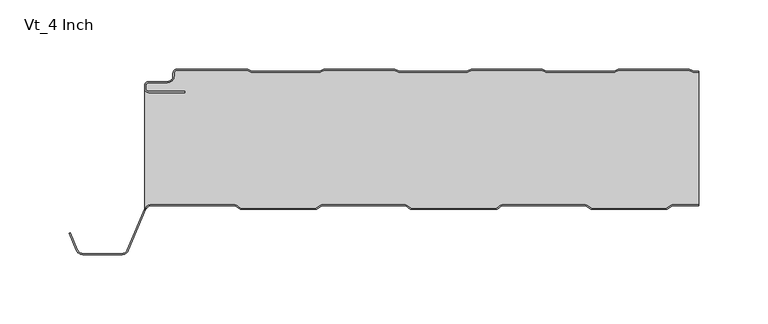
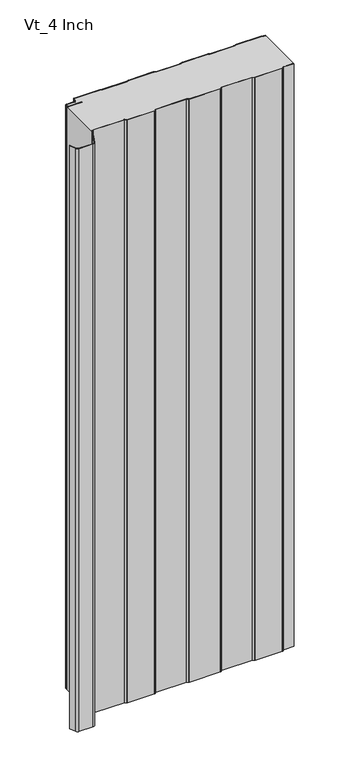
"""IFC4 building model written with IfcOpenShell, lengths in millimetres: plate geometry, AWIP_R18_CP_HR3_Vt_Roof Panel : Vt_4 Inch."""

from ifc_helpers import new_model, si_unit, point, frame, frame_2d, origin, origin_with_axes, place, context, project, spatial, polyline, circle_curve, trimmed, segment, composite_curve, outline, extrude, source, transform, mapped, element, save
from ifc_brep_helpers import plane_surface, cylinder_surface, revolved_surface, advanced_brep


def vt_4_inch_e9e6d7b6(model_context):
    return source(origin(), model_context, "Body", "SolidModel", [
        extrude(outline(composite_curve([segment(polyline([(212.4037368, -1.5), (215.9042607, -1.5), (215.9042607, -2.3), (212.4037368, -2.3)]), True, "CONTINUOUS"), segment(trimmed(circle_curve(frame_2d((212.4037368, 1.0)), 3.3), [point((212.4037368, -2.3))], [point((211.0949824, -2.0293831))], False, "CARTESIAN"), True, "CONTINUOUS"), segment(polyline([(211.0949824, -2.0293831), (208.7048832, -0.9968123)]), True, "CONTINUOUS"), segment(trimmed(circle_curve(frame_2d((207.7530619, -3.2)), 2.4), [point((208.7048832, -0.9968123))], [point((207.7530619, -0.8))], True, "CARTESIAN"), True, "CONTINUOUS"), segment(polyline([(207.7530619, -0.8), (158.8384168, -0.8)]), True, "CONTINUOUS"), segment(trimmed(circle_curve(frame_2d((158.8384168, -3.2)), 2.4), [point((158.8384168, -0.8))], [point((157.8865954, -0.9968123))], True, "CARTESIAN"), True, "CONTINUOUS"), segment(polyline([(157.8865954, -0.9968123), (155.4964962, -2.0293831)]), True, "CONTINUOUS"), segment(trimmed(circle_curve(frame_2d((154.1877419, 1.0)), 3.3), [point((155.4964962, -2.0293831))], [point((154.1877419, -2.3))], False, "CARTESIAN"), True, "CONTINUOUS"), segment(polyline([(154.1877419, -2.3), (105.8037368, -2.3)]), True, "CONTINUOUS"), segment(trimmed(circle_curve(frame_2d((105.8037368, 1.0)), 3.3), [point((105.8037368, -2.3))], [point((104.4949824, -2.0293831))], False, "CARTESIAN"), True, "CONTINUOUS"), segment(polyline([(104.4949824, -2.0293831), (102.1048832, -0.9968123)]), True, "CONTINUOUS"), segment(trimmed(circle_curve(frame_2d((101.1530619, -3.2)), 2.4), [point((102.1048832, -0.9968123))], [point((101.1530619, -0.8))], True, "CARTESIAN"), True, "CONTINUOUS"), segment(polyline([(101.1530619, -0.8), (52.2384168, -0.8)]), True, "CONTINUOUS"), segment(trimmed(circle_curve(frame_2d((52.2384168, -3.2)), 2.4), [point((52.2384168, -0.8))], [point((51.2865954, -0.9968123))], True, "CARTESIAN"), True, "CONTINUOUS"), segment(polyline([(51.2865954, -0.9968123), (48.8964962, -2.0293831)]), True, "CONTINUOUS"), segment(trimmed(circle_curve(frame_2d((47.5877419, 1.0)), 3.3), [point((48.8964962, -2.0293831))], [point((47.5877419, -2.3))], False, "CARTESIAN"), True, "CONTINUOUS"), segment(polyline([(47.5877419, -2.3), (-0.7962632, -2.3)]), True, "CONTINUOUS"), segment(trimmed(circle_curve(frame_2d((-0.7962632, 1.0)), 3.3), [point((-0.7962632, -2.3))], [point((-2.1050176, -2.0293831))], False, "CARTESIAN"), True, "CONTINUOUS"), segment(polyline([(-2.1050176, -2.0293831), (-4.4951168, -0.9968123)]), True, "CONTINUOUS"), segment(trimmed(circle_curve(frame_2d((-5.4469381, -3.2)), 2.4), [point((-4.4951168, -0.9968123))], [point((-5.4469381, -0.8))], True, "CARTESIAN"), True, "CONTINUOUS"), segment(polyline([(-5.4469381, -0.8), (-54.3615832, -0.8)]), True, "CONTINUOUS"), segment(trimmed(circle_curve(frame_2d((-54.3615832, -3.2)), 2.4), [point((-54.3615832, -0.8))], [point((-55.3134046, -0.9968123))], True, "CARTESIAN"), True, "CONTINUOUS"), segment(polyline([(-55.3134046, -0.9968123), (-57.7035038, -2.0293831)]), True, "CONTINUOUS"), segment(trimmed(circle_curve(frame_2d((-59.0122581, 1.0)), 3.3), [point((-57.7035038, -2.0293831))], [point((-59.0122581, -2.3))], False, "CARTESIAN"), True, "CONTINUOUS"), segment(polyline([(-59.0122581, -2.3), (-107.3962632, -2.3)]), True, "CONTINUOUS"), segment(trimmed(circle_curve(frame_2d((-107.3962632, 1.0)), 3.3), [point((-107.3962632, -2.3))], [point((-108.7050176, -2.0293831))], False, "CARTESIAN"), True, "CONTINUOUS"), segment(polyline([(-108.7050176, -2.0293831), (-111.0951168, -0.9968123)]), True, "CONTINUOUS"), segment(trimmed(circle_curve(frame_2d((-112.0469381, -3.2)), 2.4), [point((-111.0951168, -0.9968123))], [point((-112.0469381, -0.8))], True, "CARTESIAN"), True, "CONTINUOUS"), segment(polyline([(-112.0469381, -0.8), (-161.8042607, -0.8)]), True, "CONTINUOUS"), segment(trimmed(circle_curve(frame_2d((-161.8042607, -3.0)), 2.2), [point((-161.8042607, -0.8))], [point((-164.0042607, -3.0))], True, "CARTESIAN"), True, "CONTINUOUS"), segment(polyline([(-164.0042607, -3.0), (-164.0042607, -5.0)]), True, "CONTINUOUS"), segment(trimmed(circle_curve(frame_2d((-168.8042607, -5.0)), 4.8), [point((-164.0042607, -5.0))], [point((-168.8042607, -9.8))], False, "CARTESIAN"), True, "CONTINUOUS"), segment(polyline([(-168.8042607, -9.8), (-182.3200708, -9.8)]), True, "CONTINUOUS"), segment(trimmed(circle_curve(frame_2d((-182.3200708, -12.0)), 2.2), [point((-182.3200708, -9.8))], [point((-184.5200708, -12.0))], True, "CARTESIAN"), True, "CONTINUOUS"), segment(polyline([(-184.5200708, -12.0), (-184.5200708, -14.0)]), True, "CONTINUOUS"), segment(trimmed(circle_curve(frame_2d((-182.3200708, -14.0)), 2.2), [point((-184.5200708, -14.0))], [point((-182.3200708, -16.2))], True, "CARTESIAN"), True, "CONTINUOUS"), segment(polyline([(-182.3200708, -16.2), (-156.3790289, -16.2), (-156.3790289, -17.0), (-182.3200708, -17.0)]), True, "CONTINUOUS"), segment(trimmed(circle_curve(frame_2d((-182.3200708, -14.0)), 3.0), [point((-182.3200708, -17.0))], [point((-185.3200708, -14.0))], False, "CARTESIAN"), True, "CONTINUOUS"), segment(polyline([(-185.3200708, -14.0), (-185.3200708, -12.0)]), True, "CONTINUOUS"), segment(trimmed(circle_curve(frame_2d((-182.3200708, -12.0)), 3.0), [point((-185.3200708, -12.0))], [point((-182.3200708, -9.0))], False, "CARTESIAN"), True, "CONTINUOUS"), segment(polyline([(-182.3200708, -9.0), (-168.8042607, -9.0)]), True, "CONTINUOUS"), segment(trimmed(circle_curve(frame_2d((-168.8042607, -5.0)), 4.0), [point((-168.8042607, -9.0))], [point((-164.8042607, -5.0))], True, "CARTESIAN"), True, "CONTINUOUS"), segment(polyline([(-164.8042607, -5.0), (-164.8042607, -3.0)]), True, "CONTINUOUS"), segment(trimmed(circle_curve(frame_2d((-161.8042607, -3.0)), 3.0), [point((-164.8042607, -3.0))], [point((-161.8042607, 0.0))], False, "CARTESIAN"), True, "CONTINUOUS"), segment(polyline([(-161.8042607, 0.0), (-112.0469381, 0.0)]), True, "CONTINUOUS"), segment(trimmed(circle_curve(frame_2d((-112.0469381, -3.2)), 3.2), [point((-112.0469381, 0.0))], [point((-110.777843, -0.2624164))], False, "CARTESIAN"), True, "CONTINUOUS"), segment(polyline([(-110.777843, -0.2624164), (-108.3877438, -1.2949872)]), True, "CONTINUOUS"), segment(trimmed(circle_curve(frame_2d((-107.3962632, 1.0)), 2.5), [point((-108.3877438, -1.2949872))], [point((-107.3962632, -1.5))], True, "CARTESIAN"), True, "CONTINUOUS"), segment(polyline([(-107.3962632, -1.5), (-59.0122581, -1.5)]), True, "CONTINUOUS"), segment(trimmed(circle_curve(frame_2d((-59.0122581, 1.0)), 2.5), [point((-59.0122581, -1.5))], [point((-58.0207775, -1.2949872))], True, "CARTESIAN"), True, "CONTINUOUS"), segment(polyline([(-58.0207775, -1.2949872), (-55.6306783, -0.2624164)]), True, "CONTINUOUS"), segment(trimmed(circle_curve(frame_2d((-54.3615832, -3.2)), 3.2), [point((-55.6306783, -0.2624164))], [point((-54.3615832, 0.0))], False, "CARTESIAN"), True, "CONTINUOUS"), segment(polyline([(-54.3615832, 0.0), (-5.4469381, 0.0)]), True, "CONTINUOUS"), segment(trimmed(circle_curve(frame_2d((-5.4469381, -3.2)), 3.2), [point((-5.4469381, 0.0))], [point((-4.177843, -0.2624164))], False, "CARTESIAN"), True, "CONTINUOUS"), segment(polyline([(-4.177843, -0.2624164), (-1.7877438, -1.2949872)]), True, "CONTINUOUS"), segment(trimmed(circle_curve(frame_2d((-0.7962632, 1.0)), 2.5), [point((-1.7877438, -1.2949872))], [point((-0.7962632, -1.5))], True, "CARTESIAN"), True, "CONTINUOUS"), segment(polyline([(-0.7962632, -1.5), (47.5877419, -1.5)]), True, "CONTINUOUS"), segment(trimmed(circle_curve(frame_2d((47.5877419, 1.0)), 2.5), [point((47.5877419, -1.5))], [point((48.5792225, -1.2949872))], True, "CARTESIAN"), True, "CONTINUOUS"), segment(polyline([(48.5792225, -1.2949872), (50.9693217, -0.2624164)]), True, "CONTINUOUS"), segment(trimmed(circle_curve(frame_2d((52.2384168, -3.2)), 3.2), [point((50.9693217, -0.2624164))], [point((52.2384168, 0.0))], False, "CARTESIAN"), True, "CONTINUOUS"), segment(polyline([(52.2384168, 0.0), (101.1530619, 0.0)]), True, "CONTINUOUS"), segment(trimmed(circle_curve(frame_2d((101.1530619, -3.2)), 3.2), [point((101.1530619, 0.0))], [point((102.422157, -0.2624164))], False, "CARTESIAN"), True, "CONTINUOUS"), segment(polyline([(102.422157, -0.2624164), (104.8122562, -1.2949872)]), True, "CONTINUOUS"), segment(trimmed(circle_curve(frame_2d((105.8037368, 1.0)), 2.5), [point((104.8122562, -1.2949872))], [point((105.8037368, -1.5))], True, "CARTESIAN"), True, "CONTINUOUS"), segment(polyline([(105.8037368, -1.5), (154.1877419, -1.5)]), True, "CONTINUOUS"), segment(trimmed(circle_curve(frame_2d((154.1877419, 1.0)), 2.5), [point((154.1877419, -1.5))], [point((155.1792225, -1.2949872))], True, "CARTESIAN"), True, "CONTINUOUS"), segment(polyline([(155.1792225, -1.2949872), (157.5693217, -0.2624164)]), True, "CONTINUOUS"), segment(trimmed(circle_curve(frame_2d((158.8384168, -3.2)), 3.2), [point((157.5693217, -0.2624164))], [point((158.8384168, 0.0))], False, "CARTESIAN"), True, "CONTINUOUS"), segment(polyline([(158.8384168, 0.0), (207.7530619, 0.0)]), True, "CONTINUOUS"), segment(trimmed(circle_curve(frame_2d((207.7530619, -3.2)), 3.2), [point((207.7530619, 0.0))], [point((209.022157, -0.2624164))], False, "CARTESIAN"), True, "CONTINUOUS"), segment(polyline([(209.022157, -0.2624164), (211.4122562, -1.2949872)]), True, "CONTINUOUS"), segment(trimmed(circle_curve(frame_2d((212.4037368, 1.0)), 2.5), [point((211.4122562, -1.2949872))], [point((212.4037368, -1.5))], True, "CARTESIAN"), True, "CONTINUOUS")], self_intersect=False)), origin_with_axes(), (0.0, 0.0, 1.0), 1219.2),
        advanced_brep(
        [(196.6223362, -98.0158806, 0.0), (215.9042607, -98.0158806, 0.0), (215.9042607, -98.0158806, 1219.2), (196.6223362, -98.0158806, 1219.2), (195.8609464, -98.2621797, 1219.2), (195.8609464, -98.2621797, 0.0), (192.3488119, -100.8000001, 1219.2), (192.3488119, -100.8000001, 0.0), (138.1459308, -100.8000001, 1219.2), (138.1459308, -100.8000001, 0.0), (134.6337968, -98.2621798, 1219.2), (134.6337968, -98.2621798, 0.0), (133.8724069, -98.0158806, 1219.2), (133.8724069, -98.0158806, 0.0), (73.3762764, -98.0158806, 1219.2), (73.3762764, -98.0158806, 0.0), (72.6148867, -98.2621797, 1219.2), (72.6148867, -98.2621797, 0.0), (69.1027521, -100.8000001, 1219.2), (69.1027521, -100.8000001, 0.0), (7.6420063, -100.8000001, 1219.2), (7.6420063, -100.8000001, 0.0), (4.1298717, -98.2621797, 1219.2), (4.1298717, -98.2621797, 0.0), (3.3684818, -98.0158805, 1219.2), (3.3684818, -98.0158805, 0.0), (-57.1276444, -98.0158805, 1219.2), (-57.1276444, -98.0158805, 0.0), (-57.8890342, -98.2621797, 1219.2), (-57.8890342, -98.2621797, 0.0), (-61.4011687, -100.8, 1219.2), (-61.4011687, -100.8, 0.0), (-115.604049, -100.8, 1219.2), (-115.604049, -100.8, 0.0), (-119.1161836, -98.2621797, 1219.2), (-119.1161836, -98.2621797, 0.0), (-119.8775734, -98.0158805, 1219.2), (-119.8775734, -98.0158805, 0.0), (-180.6614903, -98.0158805, 1219.2), (-180.6614903, -98.0158805, 0.0), (215.9042607, -2.3, 1219.2), (212.4037368, -2.3, 1219.2), (211.0949824, -2.0293831, 1219.2), (208.7048832, -0.9968123, 1219.2), (207.7530619, -0.8, 1219.2), (158.8384168, -0.8, 1219.2), (157.8865954, -0.9968123, 1219.2), (155.4964962, -2.0293831, 1219.2), (154.1877419, -2.3, 1219.2), (105.8037368, -2.3, 1219.2), (104.4949824, -2.0293831, 1219.2), (102.1048832, -0.9968123, 1219.2), (101.1530619, -0.8, 1219.2), (52.2384168, -0.8, 1219.2), (51.2865954, -0.9968123, 1219.2), (48.8964962, -2.0293831, 1219.2), (47.5877419, -2.3, 1219.2), (-0.7962632, -2.3, 1219.2), (-2.1050176, -2.0293831, 1219.2), (-4.4951168, -0.9968123, 1219.2), (-5.4469381, -0.8, 1219.2), (-54.3615832, -0.8, 1219.2), (-55.3134046, -0.9968123, 1219.2), (-57.7035038, -2.0293831, 1219.2), (-59.0122581, -2.3, 1219.2), (-107.3962632, -2.3, 1219.2), (-108.7050176, -2.0293831, 1219.2), (-111.0951168, -0.9968123, 1219.2), (-112.0469381, -0.8, 1219.2), (-161.8042607, -0.8, 1219.2), (-164.0042607, -3.0, 1219.2), (-164.0042607, -5.0, 1219.2), (-168.8042607, -9.8, 1219.2), (-182.3200708, -9.8, 1219.2), (-184.5200708, -12.0, 1219.2), (-184.5200708, -14.0, 1219.2), (-182.3200708, -16.2, 1219.2), (-156.3790289, -16.2, 1219.2), (-156.3790289, -17.0, 1219.2), (-182.3200708, -17.0, 1219.2), (-185.3200708, -14.0, 1219.2), (-185.3370174, -101.7298575, 1219.2), (-185.3370174, -101.7298575, 0.0), (-185.3370174, -14.0, 0.0), (-182.3200708, -17.0, 0.0), (-156.3790289, -17.0, 0.0), (-156.3790289, -16.2, 0.0), (-182.3200708, -16.2, 0.0), (-184.5200708, -14.0, 0.0), (-184.5200708, -12.0, 0.0), (-182.3200708, -9.8, 0.0), (-168.8042607, -9.8, 0.0), (-164.0042607, -5.0, 0.0), (-164.0042607, -3.0, 0.0), (-161.8042607, -0.8, 0.0), (-112.0469381, -0.8, 0.0), (-111.0951168, -0.9968123, 0.0), (-108.7050176, -2.0293831, 0.0), (-107.3962632, -2.3, 0.0), (-59.0122581, -2.3, 0.0), (-57.7035038, -2.0293831, 0.0), (-55.3134046, -0.9968123, 0.0), (-54.3615832, -0.8, 0.0), (-5.4469381, -0.8, 0.0), (-4.4951168, -0.9968123, 0.0), (-2.1050176, -2.0293831, 0.0), (-0.7962632, -2.3, 0.0), (47.5877419, -2.3, 0.0), (48.8964962, -2.0293831, 0.0), (51.2865954, -0.9968123, 0.0), (52.2384168, -0.8, 0.0), (101.1530619, -0.8, 0.0), (102.1048832, -0.9968123, 0.0), (104.4949824, -2.0293831, 0.0), (105.8037368, -2.3, 0.0), (154.1877419, -2.3, 0.0), (155.4964962, -2.0293831, 0.0), (157.8865954, -0.9968123, 0.0), (158.8384168, -0.8, 0.0), (207.7530619, -0.8, 0.0), (208.7048832, -0.9968123, 0.0), (211.0949824, -2.0293831, 0.0), (212.4037368, -2.3, 0.0), (215.9042607, -2.3, 0.0)],
        [
            (0, 1),
            (1, 2),
            (2, 3),
            (3, 0),
            (4, 5),
            (5, 0, circle_curve(frame((196.6223362, -99.3158806, 0.0), z_axis=(0.0, 0.0, -1.0), x_axis=(0.0, -1.0, 0.0)), 1.3)),
            (3, 4, circle_curve(frame((196.6223362, -99.3158806, 1219.2), z_axis=(0.0, 0.0, 1.0), x_axis=(0.0, -1.0, 0.0)), 1.3)),
            (6, 7),
            (7, 5),
            (4, 6),
            (8, 9),
            (9, 7),
            (6, 8),
            (10, 11),
            (11, 9),
            (8, 10),
            (12, 13),
            (13, 11, circle_curve(frame((133.8724069, -99.3158806, 0.0), z_axis=(0.0, 0.0, -1.0), x_axis=(0.0, -1.0, 0.0)), 1.3)),
            (10, 12, circle_curve(frame((133.8724069, -99.3158806, 1219.2), z_axis=(0.0, 0.0, 1.0), x_axis=(0.0, -1.0, 0.0)), 1.3)),
            (14, 15),
            (15, 13),
            (12, 14),
            (16, 17),
            (17, 15, circle_curve(frame((73.3762764, -99.3158804, 0.0), z_axis=(0.0, 0.0, -1.0), x_axis=(0.0, -1.0, 0.0)), 1.2999998)),
            (14, 16, circle_curve(frame((73.3762764, -99.3158804, 1219.2), z_axis=(0.0, 0.0, 1.0), x_axis=(0.0, -1.0, 0.0)), 1.2999998)),
            (18, 19),
            (19, 17),
            (16, 18),
            (20, 21),
            (21, 19),
            (18, 20),
            (22, 23),
            (23, 21),
            (20, 22),
            (24, 25),
            (25, 23, circle_curve(frame((3.3684818, -99.3158805, 0.0), z_axis=(0.0, 0.0, -1.0), x_axis=(0.0, -1.0, 0.0)), 1.3)),
            (22, 24, circle_curve(frame((3.3684818, -99.3158805, 1219.2), z_axis=(0.0, 0.0, 1.0), x_axis=(0.0, -1.0, 0.0)), 1.3)),
            (26, 27),
            (27, 25),
            (24, 26),
            (28, 29),
            (29, 27, circle_curve(frame((-57.1276444, -99.3158805, 0.0), z_axis=(0.0, 0.0, -1.0), x_axis=(0.0, -1.0, 0.0)), 1.3)),
            (26, 28, circle_curve(frame((-57.1276444, -99.3158805, 1219.2), z_axis=(0.0, 0.0, 1.0), x_axis=(0.0, -1.0, 0.0)), 1.3)),
            (30, 31),
            (31, 29),
            (28, 30),
            (32, 33),
            (33, 31),
            (30, 32),
            (34, 35),
            (35, 33),
            (32, 34),
            (36, 37),
            (37, 35, circle_curve(frame((-119.8775734, -99.3158805, 0.0), z_axis=(0.0, 0.0, -1.0), x_axis=(0.0, -1.0, 0.0)), 1.3)),
            (34, 36, circle_curve(frame((-119.8775734, -99.3158805, 1219.2), z_axis=(0.0, 0.0, 1.0), x_axis=(0.0, -1.0, 0.0)), 1.3)),
            (38, 39),
            (39, 37),
            (36, 38),
            (2, 40),
            (40, 41),
            (41, 42, circle_curve(frame((212.4037368, 1.0, 1219.2), z_axis=(0.0, 0.0, -1.0), x_axis=(0.0, -1.0, 0.0)), 3.3)),
            (42, 43),
            (43, 44, circle_curve(frame((207.7530619, -3.2, 1219.2), z_axis=(0.0, 0.0, 1.0), x_axis=(0.0, -1.0, 0.0)), 2.4)),
            (44, 45),
            (45, 46, circle_curve(frame((158.8384168, -3.2, 1219.2), z_axis=(0.0, 0.0, 1.0), x_axis=(0.0, -1.0, 0.0)), 2.4)),
            (46, 47),
            (47, 48, circle_curve(frame((154.1877419, 1.0, 1219.2), z_axis=(0.0, 0.0, -1.0), x_axis=(0.0, -1.0, 0.0)), 3.3)),
            (48, 49),
            (49, 50, circle_curve(frame((105.8037368, 1.0, 1219.2), z_axis=(0.0, 0.0, -1.0), x_axis=(0.0, -1.0, 0.0)), 3.3)),
            (50, 51),
            (51, 52, circle_curve(frame((101.1530619, -3.2, 1219.2), z_axis=(0.0, 0.0, 1.0), x_axis=(0.0, -1.0, 0.0)), 2.4)),
            (52, 53),
            (53, 54, circle_curve(frame((52.2384168, -3.2, 1219.2), z_axis=(0.0, 0.0, 1.0), x_axis=(0.0, -1.0, 0.0)), 2.4)),
            (54, 55),
            (55, 56, circle_curve(frame((47.5877419, 1.0, 1219.2), z_axis=(0.0, 0.0, -1.0), x_axis=(0.0, -1.0, 0.0)), 3.3)),
            (56, 57),
            (57, 58, circle_curve(frame((-0.7962632, 1.0, 1219.2), z_axis=(0.0, 0.0, -1.0), x_axis=(0.0, -1.0, 0.0)), 3.3)),
            (58, 59),
            (59, 60, circle_curve(frame((-5.4469381, -3.2, 1219.2), z_axis=(0.0, 0.0, 1.0), x_axis=(0.0, -1.0, 0.0)), 2.4)),
            (60, 61),
            (61, 62, circle_curve(frame((-54.3615832, -3.2, 1219.2), z_axis=(0.0, 0.0, 1.0), x_axis=(0.0, -1.0, 0.0)), 2.4)),
            (62, 63),
            (63, 64, circle_curve(frame((-59.0122581, 1.0, 1219.2), z_axis=(0.0, 0.0, -1.0), x_axis=(0.0, -1.0, 0.0)), 3.3)),
            (64, 65),
            (65, 66, circle_curve(frame((-107.3962632, 1.0, 1219.2), z_axis=(0.0, 0.0, -1.0), x_axis=(0.0, -1.0, 0.0)), 3.3)),
            (66, 67),
            (67, 68, circle_curve(frame((-112.0469381, -3.2, 1219.2), z_axis=(0.0, 0.0, 1.0), x_axis=(0.0, -1.0, 0.0)), 2.4)),
            (68, 69),
            (69, 70, circle_curve(frame((-161.8042607, -3.0, 1219.2), z_axis=(0.0, 0.0, 1.0), x_axis=(0.0, -1.0, 0.0)), 2.2)),
            (70, 71),
            (71, 72, circle_curve(frame((-168.8042607, -5.0, 1219.2), z_axis=(0.0, 0.0, -1.0), x_axis=(0.0, -1.0, 0.0)), 4.8)),
            (72, 73),
            (73, 74, circle_curve(frame((-182.3200708, -12.0, 1219.2), z_axis=(0.0, 0.0, 1.0), x_axis=(0.0, -1.0, 0.0)), 2.2)),
            (74, 75),
            (75, 76, circle_curve(frame((-182.3200708, -14.0, 1219.2), z_axis=(0.0, 0.0, 1.0), x_axis=(0.0, -1.0, 0.0)), 2.2)),
            (76, 77),
            (77, 78),
            (78, 79),
            (79, 80, circle_curve(frame((-182.3200708, -14.0, 1219.2), z_axis=(0.0, 0.0, -1.0), x_axis=(0.0, -1.0, 0.0)), 3.0)),
            (80, 81),
            (81, 38, circle_curve(frame((-180.6614903, -102.8158804, 1219.2), z_axis=(0.0, 0.0, -1.0), x_axis=(0.0, -1.0, 0.0)), 4.7999999)),
            (39, 82, circle_curve(frame((-180.6614903, -102.8158804, 0.0), z_axis=(0.0, 0.0, 1.0), x_axis=(0.0, -1.0, 0.0)), 4.7999999)),
            (82, 83),
            (83, 84, circle_curve(frame((-182.3200708, -14.0, 0.0), z_axis=(0.0, 0.0, 1.0), x_axis=(0.0, -1.0, 0.0)), 3.0)),
            (84, 85),
            (85, 86),
            (86, 87),
            (87, 88, circle_curve(frame((-182.3200708, -14.0, 0.0), z_axis=(0.0, 0.0, -1.0), x_axis=(0.0, -1.0, 0.0)), 2.2)),
            (88, 89),
            (89, 90, circle_curve(frame((-182.3200708, -12.0, 0.0), z_axis=(0.0, 0.0, -1.0), x_axis=(0.0, -1.0, 0.0)), 2.2)),
            (90, 91),
            (91, 92, circle_curve(frame((-168.8042607, -5.0, 0.0), z_axis=(0.0, 0.0, 1.0), x_axis=(0.0, -1.0, 0.0)), 4.8)),
            (92, 93),
            (93, 94, circle_curve(frame((-161.8042607, -3.0, 0.0), z_axis=(0.0, 0.0, -1.0), x_axis=(0.0, -1.0, 0.0)), 2.2)),
            (94, 95),
            (95, 96, circle_curve(frame((-112.0469381, -3.2, 0.0), z_axis=(0.0, 0.0, -1.0), x_axis=(0.0, -1.0, 0.0)), 2.4)),
            (96, 97),
            (97, 98, circle_curve(frame((-107.3962632, 1.0, 0.0), z_axis=(0.0, 0.0, 1.0), x_axis=(0.0, -1.0, 0.0)), 3.3)),
            (98, 99),
            (99, 100, circle_curve(frame((-59.0122581, 1.0, 0.0), z_axis=(0.0, 0.0, 1.0), x_axis=(0.0, -1.0, 0.0)), 3.3)),
            (100, 101),
            (101, 102, circle_curve(frame((-54.3615832, -3.2, 0.0), z_axis=(0.0, 0.0, -1.0), x_axis=(0.0, -1.0, 0.0)), 2.4)),
            (102, 103),
            (103, 104, circle_curve(frame((-5.4469381, -3.2, 0.0), z_axis=(0.0, 0.0, -1.0), x_axis=(0.0, -1.0, 0.0)), 2.4)),
            (104, 105),
            (105, 106, circle_curve(frame((-0.7962632, 1.0, 0.0), z_axis=(0.0, 0.0, 1.0), x_axis=(0.0, -1.0, 0.0)), 3.3)),
            (106, 107),
            (107, 108, circle_curve(frame((47.5877419, 1.0, 0.0), z_axis=(0.0, 0.0, 1.0), x_axis=(0.0, -1.0, 0.0)), 3.3)),
            (108, 109),
            (109, 110, circle_curve(frame((52.2384168, -3.2, 0.0), z_axis=(0.0, 0.0, -1.0), x_axis=(0.0, -1.0, 0.0)), 2.4)),
            (110, 111),
            (111, 112, circle_curve(frame((101.1530619, -3.2, 0.0), z_axis=(0.0, 0.0, -1.0), x_axis=(0.0, -1.0, 0.0)), 2.4)),
            (112, 113),
            (113, 114, circle_curve(frame((105.8037368, 1.0, 0.0), z_axis=(0.0, 0.0, 1.0), x_axis=(0.0, -1.0, 0.0)), 3.3)),
            (114, 115),
            (115, 116, circle_curve(frame((154.1877419, 1.0, 0.0), z_axis=(0.0, 0.0, 1.0), x_axis=(0.0, -1.0, 0.0)), 3.3)),
            (116, 117),
            (117, 118, circle_curve(frame((158.8384168, -3.2, 0.0), z_axis=(0.0, 0.0, -1.0), x_axis=(0.0, -1.0, 0.0)), 2.4)),
            (118, 119),
            (119, 120, circle_curve(frame((207.7530619, -3.2, 0.0), z_axis=(0.0, 0.0, -1.0), x_axis=(0.0, -1.0, 0.0)), 2.4)),
            (120, 121),
            (121, 122, circle_curve(frame((212.4037368, 1.0, 0.0), z_axis=(0.0, 0.0, 1.0), x_axis=(0.0, -1.0, 0.0)), 3.3)),
            (122, 123),
            (123, 1),
            (123, 40),
            (81, 82),
            (80, 83),
            (79, 84),
            (78, 85),
            (77, 86),
            (76, 87),
            (75, 88),
            (74, 89),
            (73, 90),
            (72, 91),
            (71, 92),
            (70, 93),
            (69, 94),
            (68, 95),
            (67, 96),
            (66, 97),
            (65, 98),
            (64, 99),
            (63, 100),
            (62, 101),
            (61, 102),
            (60, 103),
            (59, 104),
            (58, 105),
            (57, 106),
            (56, 107),
            (55, 108),
            (54, 109),
            (53, 110),
            (52, 111),
            (51, 112),
            (50, 113),
            (49, 114),
            (48, 115),
            (47, 116),
            (46, 117),
            (45, 118),
            (44, 119),
            (43, 120),
            (42, 121),
            (41, 122),
        ],
        [
            plane_surface(frame((257.1184818, -98.0158806, 1219.2), z_axis=(0.0, -1.0, 0.0), x_axis=(0.0, 0.0, -1.0))),
            revolved_surface(polyline([(196.6223362, -100.6158806, 0.0), (196.6223362, -100.6158806, 1219.2)]), (196.6223362, -99.3158806, 1219.2), (0.0, 0.0, -1.0)),
            plane_surface(frame((195.8609464, -98.2621797, 1219.2), z_axis=(0.5856844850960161, -0.8105391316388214, 0.0), x_axis=(0.0, 0.0, -1.0))),
            plane_surface(frame((192.3488119, -100.8000001, 1219.2), z_axis=(0.0, -1.0, 0.0), x_axis=(0.0, 0.0, -1.0))),
            plane_surface(frame((138.1459308, -100.8000001, 1219.2), z_axis=(-0.585684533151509, -0.8105390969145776, 0.0), x_axis=(0.0, 0.0, -1.0))),
            revolved_surface(polyline([(133.8724069, -100.6158806, 0.0), (133.8724069, -100.6158806, 1219.2)]), (133.8724069, -99.3158806, 1219.2), (0.0, 0.0, -1.0)),
            plane_surface(frame((133.8724069, -98.0158806, 1219.2), z_axis=(0.0, -1.0, 0.0), x_axis=(0.0, 0.0, -1.0))),
            revolved_surface(polyline([(73.3762764, -100.61588019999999, 0.0), (73.3762764, -100.61588019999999, 1219.2)]), (73.3762764, -99.3158804, 1219.2), (0.0, 0.0, -1.0)),
            plane_surface(frame((72.6148867, -98.2621797, 1219.2), z_axis=(0.5856844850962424, -0.8105391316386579, 0.0), x_axis=(0.0, 0.0, -1.0))),
            plane_surface(frame((69.1027521, -100.8000001, 1219.2), z_axis=(0.0, -1.0, 0.0), x_axis=(0.0, 0.0, -1.0))),
            plane_surface(frame((7.6420063, -100.8000001, 1219.2), z_axis=(-0.5856844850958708, -0.8105391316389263, 0.0), x_axis=(0.0, 0.0, -1.0))),
            revolved_surface(polyline([(3.3684818, -100.6158805, 0.0), (3.3684818, -100.6158805, 1219.2)]), (3.3684818, -99.3158805, 1219.2), (0.0, 0.0, -1.0)),
            plane_surface(frame((3.3684818, -98.0158805, 1219.2), z_axis=(0.0, -1.0, 0.0), x_axis=(0.0, 0.0, -1.0))),
            revolved_surface(polyline([(-57.1276444, -100.6158805, 0.0), (-57.1276444, -100.6158805, 1219.2)]), (-57.1276444, -99.3158805, 1219.2), (0.0, 0.0, -1.0)),
            plane_surface(frame((-57.8890342, -98.2621797, 1219.2), z_axis=(0.5856844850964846, -0.8105391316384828, 0.0), x_axis=(0.0, 0.0, -1.0))),
            plane_surface(frame((-61.4011687, -100.8, 1219.2), z_axis=(0.0, -1.0, 0.0), x_axis=(0.0, 0.0, -1.0))),
            plane_surface(frame((-115.604049, -100.8, 1219.2), z_axis=(-0.5856844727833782, -0.8105391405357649, 0.0), x_axis=(0.0, 0.0, -1.0))),
            revolved_surface(polyline([(-119.8775734, -100.6158805, 0.0), (-119.8775734, -100.6158805, 1219.2)]), (-119.8775734, -99.3158805, 1219.2), (0.0, 0.0, -1.0)),
            plane_surface(frame((-119.8775734, -98.0158805, 1219.2), z_axis=(0.0, -1.0, 0.0), x_axis=(0.0, 0.0, -1.0))),
            plane_surface(frame((292.0957393, -0.8, 1219.2), z_axis=(0.0, 0.0, 1.0), x_axis=(0.0, -1.0, 0.0))),
            plane_surface(frame((292.0957393, -0.8, 0.0), z_axis=(0.0, 0.0, -1.0), x_axis=(0.0, -1.0, 0.0))),
            plane_surface(frame((215.9042607, -166.6, 1219.2), z_axis=(1.0, 0.0, 0.0), x_axis=(0.0, 0.0, -1.0))),
            revolved_surface(polyline([(-180.6614903, -107.6158803, 0.0), (-180.6614903, -107.6158803, 1219.2)]), (-180.6614903, -102.8158804, 1219.2), (0.0, 0.0, -1.0)),
            plane_surface(frame((-185.3370174, -101.7298575, 1219.2), z_axis=(-1.0, 0.0, 0.0), x_axis=(0.0, 0.0, -1.0))),
            revolved_surface(polyline([(-182.3200708, -17.0, 0.0), (-182.3200708, -17.0, 1219.2)]), (-182.3200708, -14.0, 1219.2), (0.0, 0.0, -1.0)),
            plane_surface(frame((-182.3200708, -17.0, 1219.2), z_axis=(0.0, 1.0, 0.0), x_axis=(0.0, 0.0, -1.0))),
            plane_surface(frame((-156.3790289, -17.0, 1219.2), z_axis=(-1.0, 0.0, 0.0), x_axis=(0.0, 0.0, -1.0))),
            plane_surface(frame((-156.3790289, -16.2, 1219.2), z_axis=(0.0, -1.0, 0.0), x_axis=(0.0, 0.0, -1.0))),
            cylinder_surface(frame((-182.3200708, -14.0, 1219.2), z_axis=(0.0, 0.0, 1.0), x_axis=(0.0, -1.0, 0.0)), 2.2),
            plane_surface(frame((-184.5200708, -14.0, 1219.2), z_axis=(-1.0, 0.0, 0.0), x_axis=(0.0, 0.0, -1.0))),
            cylinder_surface(frame((-182.3200708, -12.0, 1219.2), z_axis=(0.0, 0.0, 1.0), x_axis=(0.0, -1.0, 0.0)), 2.2),
            plane_surface(frame((-182.3200708, -9.8, 1219.2), z_axis=(0.0, 1.0, 0.0), x_axis=(0.0, 0.0, -1.0))),
            revolved_surface(polyline([(-168.8042607, -9.8, 0.0), (-168.8042607, -9.8, 1219.2)]), (-168.8042607, -5.0, 1219.2), (0.0, 0.0, -1.0)),
            plane_surface(frame((-164.0042607, -5.0, 1219.2), z_axis=(-1.0, 0.0, 0.0), x_axis=(0.0, 0.0, -1.0))),
            cylinder_surface(frame((-161.8042607, -3.0, 1219.2), z_axis=(0.0, 0.0, 1.0), x_axis=(0.0, -1.0, 0.0)), 2.2),
            plane_surface(frame((-161.8042607, -0.8, 1219.2), z_axis=(0.0, 1.0, 0.0), x_axis=(0.0, 0.0, -1.0))),
            cylinder_surface(frame((-112.0469381, -3.2, 1219.2), z_axis=(0.0, 0.0, 1.0), x_axis=(0.0, -1.0, 0.0)), 2.4),
            plane_surface(frame((-111.0951168, -0.9968123, 1219.2), z_axis=(0.39659222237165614, 0.9179948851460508, 0.0), x_axis=(0.0, 0.0, -1.0))),
            revolved_surface(polyline([(-107.3962632, -2.3, 0.0), (-107.3962632, -2.3, 1219.2)]), (-107.3962632, 1.0, 1219.2), (0.0, 0.0, -1.0)),
            plane_surface(frame((-107.3962632, -2.3, 1219.2), z_axis=(0.0, 1.0, 0.0), x_axis=(0.0, 0.0, -1.0))),
            revolved_surface(polyline([(-59.0122581, -2.3, 0.0), (-59.0122581, -2.3, 1219.2)]), (-59.0122581, 1.0, 1219.2), (0.0, 0.0, -1.0)),
            plane_surface(frame((-57.7035038, -2.0293831, 1219.2), z_axis=(-0.396592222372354, 0.9179948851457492, 0.0), x_axis=(0.0, 0.0, -1.0))),
            cylinder_surface(frame((-54.3615832, -3.2, 1219.2), z_axis=(0.0, 0.0, 1.0), x_axis=(0.0, -1.0, 0.0)), 2.4),
            plane_surface(frame((-54.3615832, -0.8, 1219.2), z_axis=(0.0, 1.0, 0.0), x_axis=(0.0, 0.0, -1.0))),
            cylinder_surface(frame((-5.4469381, -3.2, 1219.2), z_axis=(0.0, 0.0, 1.0), x_axis=(0.0, -1.0, 0.0)), 2.4),
            plane_surface(frame((-4.4951168, -0.9968123, 1219.2), z_axis=(0.39659222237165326, 0.9179948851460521, 0.0), x_axis=(0.0, 0.0, -1.0))),
            revolved_surface(polyline([(-0.7962632, -2.3, 0.0), (-0.7962632, -2.3, 1219.2)]), (-0.7962632, 1.0, 1219.2), (0.0, 0.0, -1.0)),
            plane_surface(frame((-0.7962632, -2.3, 1219.2), z_axis=(0.0, 1.0, 0.0), x_axis=(0.0, 0.0, -1.0))),
            revolved_surface(polyline([(47.5877419, -2.3, 0.0), (47.5877419, -2.3, 1219.2)]), (47.5877419, 1.0, 1219.2), (0.0, 0.0, -1.0)),
            plane_surface(frame((48.8964962, -2.0293831, 1219.2), z_axis=(-0.39659222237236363, 0.9179948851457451, 0.0), x_axis=(0.0, 0.0, -1.0))),
            cylinder_surface(frame((52.2384168, -3.2, 1219.2), z_axis=(0.0, 0.0, 1.0), x_axis=(0.0, -1.0, 0.0)), 2.4),
            plane_surface(frame((52.2384168, -0.8, 1219.2), z_axis=(0.0, 1.0, 0.0), x_axis=(0.0, 0.0, -1.0))),
            cylinder_surface(frame((101.1530619, -3.2, 1219.2), z_axis=(0.0, 0.0, 1.0), x_axis=(0.0, -1.0, 0.0)), 2.4),
            plane_surface(frame((102.1048832, -0.9968123, 1219.2), z_axis=(0.3965922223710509, 0.9179948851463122, 0.0), x_axis=(0.0, 0.0, -1.0))),
            revolved_surface(polyline([(105.8037368, -2.3, 0.0), (105.8037368, -2.3, 1219.2)]), (105.8037368, 1.0, 1219.2), (0.0, 0.0, -1.0)),
            plane_surface(frame((105.8037368, -2.3, 1219.2), z_axis=(0.0, 1.0, 0.0), x_axis=(0.0, 0.0, -1.0))),
            revolved_surface(polyline([(154.1877419, -2.3, 0.0), (154.1877419, -2.3, 1219.2)]), (154.1877419, 1.0, 1219.2), (0.0, 0.0, -1.0)),
            plane_surface(frame((155.4964962, -2.0293831, 1219.2), z_axis=(-0.39659222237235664, 0.9179948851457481, 0.0), x_axis=(0.0, 0.0, -1.0))),
            cylinder_surface(frame((158.8384168, -3.2, 1219.2), z_axis=(0.0, 0.0, 1.0), x_axis=(0.0, -1.0, 0.0)), 2.4),
            plane_surface(frame((158.8384168, -0.8, 1219.2), z_axis=(0.0, 1.0, 0.0), x_axis=(0.0, 0.0, -1.0))),
            cylinder_surface(frame((207.7530619, -3.2, 1219.2), z_axis=(0.0, 0.0, 1.0), x_axis=(0.0, -1.0, 0.0)), 2.4),
            plane_surface(frame((208.7048832, -0.9968123, 1219.2), z_axis=(0.39659222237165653, 0.9179948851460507, 0.0), x_axis=(0.0, 0.0, -1.0))),
            revolved_surface(polyline([(212.4037368, -2.3, 0.0), (212.4037368, -2.3, 1219.2)]), (212.4037368, 1.0, 1219.2), (0.0, 0.0, -1.0)),
            plane_surface(frame((212.4037368, -2.3, 1219.2), z_axis=(0.0, 1.0, 0.0), x_axis=(0.0, 0.0, -1.0))),
        ],
        [
            (0, [[1, 2, 3, 4]]),
            (1, [[5, 6, -4, 7]]),
            (2, [[8, 9, -5, 10]]),
            (3, [[11, 12, -8, 13]]),
            (4, [[14, 15, -11, 16]]),
            (5, [[17, 18, -14, 19]]),
            (6, [[20, 21, -17, 22]]),
            (7, [[23, 24, -20, 25]]),
            (8, [[26, 27, -23, 28]]),
            (9, [[29, 30, -26, 31]]),
            (10, [[32, 33, -29, 34]]),
            (11, [[35, 36, -32, 37]]),
            (12, [[38, 39, -35, 40]]),
            (13, [[41, 42, -38, 43]]),
            (14, [[44, 45, -41, 46]]),
            (15, [[47, 48, -44, 49]]),
            (16, [[50, 51, -47, 52]]),
            (17, [[53, 54, -50, 55]]),
            (18, [[56, 57, -53, 58]]),
            (19, [[-58, -55, -52, -49, -46, -43, -40, -37, -34, -31, -28, -25, -22, -19, -16, -13, -10, -7, -3, 59, 60, 61, 62, 63, 64, 65, 66, 67, 68, 69, 70, 71, 72, 73, 74, 75, 76, 77, 78, 79, 80, 81, 82, 83, 84, 85, 86, 87, 88, 89, 90, 91, 92, 93, 94, 95, 96, 97, 98, 99, 100, 101]]),
            (20, [[102, 103, 104, 105, 106, 107, 108, 109, 110, 111, 112, 113, 114, 115, 116, 117, 118, 119, 120, 121, 122, 123, 124, 125, 126, 127, 128, 129, 130, 131, 132, 133, 134, 135, 136, 137, 138, 139, 140, 141, 142, 143, 144, -1, -6, -9, -12, -15, -18, -21, -24, -27, -30, -33, -36, -39, -42, -45, -48, -51, -54, -57]]),
            (21, [[-2, -144, 145, -59]]),
            (22, [[146, -102, -56, -101]]),
            (23, [[147, -103, -146, -100]]),
            (24, [[148, -104, -147, -99]]),
            (25, [[149, -105, -148, -98]]),
            (26, [[150, -106, -149, -97]]),
            (27, [[151, -107, -150, -96]]),
            (28, [[152, -108, -151, -95]]),
            (29, [[153, -109, -152, -94]]),
            (30, [[154, -110, -153, -93]]),
            (31, [[155, -111, -154, -92]]),
            (32, [[156, -112, -155, -91]]),
            (33, [[157, -113, -156, -90]]),
            (34, [[158, -114, -157, -89]]),
            (35, [[159, -115, -158, -88]]),
            (36, [[160, -116, -159, -87]]),
            (37, [[161, -117, -160, -86]]),
            (38, [[162, -118, -161, -85]]),
            (39, [[163, -119, -162, -84]]),
            (40, [[164, -120, -163, -83]]),
            (41, [[165, -121, -164, -82]]),
            (42, [[166, -122, -165, -81]]),
            (43, [[167, -123, -166, -80]]),
            (44, [[168, -124, -167, -79]]),
            (45, [[169, -125, -168, -78]]),
            (46, [[170, -126, -169, -77]]),
            (47, [[171, -127, -170, -76]]),
            (48, [[172, -128, -171, -75]]),
            (49, [[173, -129, -172, -74]]),
            (50, [[174, -130, -173, -73]]),
            (51, [[175, -131, -174, -72]]),
            (52, [[176, -132, -175, -71]]),
            (53, [[177, -133, -176, -70]]),
            (54, [[178, -134, -177, -69]]),
            (55, [[179, -135, -178, -68]]),
            (56, [[180, -136, -179, -67]]),
            (57, [[181, -137, -180, -66]]),
            (58, [[182, -138, -181, -65]]),
            (59, [[183, -139, -182, -64]]),
            (60, [[184, -140, -183, -63]]),
            (61, [[185, -141, -184, -62]]),
            (62, [[186, -142, -185, -61]]),
            (63, [[-60, -145, -143, -186]]),
        ],
    ),
        extrude(outline(composite_curve([segment(polyline([(-119.1161836, -98.2621793), (-115.604049, -100.7999997), (-61.4011687, -100.7999997), (-57.8890342, -98.2621793)]), True, "CONTINUOUS"), segment(trimmed(circle_curve(frame_2d((-57.1276444, -99.3158802)), 1.3), [point((-57.8890342, -98.2621793))], [point((-57.1276444, -98.0158802))], False, "CARTESIAN"), True, "CONTINUOUS"), segment(polyline([(-57.1276444, -98.0158802), (3.3684818, -98.0158802)]), True, "CONTINUOUS"), segment(trimmed(circle_curve(frame_2d((3.3684818, -99.3158802)), 1.3), [point((3.3684818, -98.0158802))], [point((4.1298717, -98.2621793))], False, "CARTESIAN"), True, "CONTINUOUS"), segment(polyline([(4.1298717, -98.2621793), (7.6420063, -100.7999997), (69.1027521, -100.7999997), (72.6148867, -98.2621794)]), True, "CONTINUOUS"), segment(trimmed(circle_curve(frame_2d((73.3762764, -99.3158801)), 1.2999998), [point((72.6148867, -98.2621794))], [point((73.3762764, -98.0158803))], False, "CARTESIAN"), True, "CONTINUOUS"), segment(polyline([(73.3762764, -98.0158803), (133.8724069, -98.0158803)]), True, "CONTINUOUS"), segment(trimmed(circle_curve(frame_2d((133.8724069, -99.3158803)), 1.3), [point((133.8724069, -98.0158803))], [point((134.6337968, -98.2621795))], False, "CARTESIAN"), True, "CONTINUOUS"), segment(polyline([(134.6337968, -98.2621795), (138.1459308, -100.7999997), (192.3488119, -100.7999997), (195.8609464, -98.2621794)]), True, "CONTINUOUS"), segment(trimmed(circle_curve(frame_2d((196.6223362, -99.3158803)), 1.3), [point((195.8609464, -98.2621794))], [point((196.6223362, -98.0158803))], False, "CARTESIAN"), True, "CONTINUOUS"), segment(polyline([(196.6223362, -98.0158803), (215.9042607, -98.0158803), (215.9042607, -98.8158801), (196.4605931, -98.8158801), (193.0008983, -101.3158084)]), True, "CONTINUOUS"), segment(trimmed(circle_curve(frame_2d((192.1223715, -100.0999997)), 1.5), [point((193.0008983, -101.3158084))], [point((192.1223715, -101.5999997))], False, "CARTESIAN"), True, "CONTINUOUS"), segment(polyline([(192.1223715, -101.5999997), (138.3723716, -101.6)]), True, "CONTINUOUS"), segment(trimmed(circle_curve(frame_2d((138.3723716, -100.0999997)), 1.5000003), [point((138.3723716, -101.6))], [point((137.4938446, -101.3158086))], False, "CARTESIAN"), True, "CONTINUOUS"), segment(polyline([(137.4938446, -101.3158086), (134.03415, -98.8158803), (73.2145333, -98.8158803), (69.7548385, -101.3158084)]), True, "CONTINUOUS"), segment(trimmed(circle_curve(frame_2d((68.8763118, -100.0999997)), 1.5), [point((69.7548385, -101.3158084))], [point((68.8753404, -101.5999994))], False, "CARTESIAN"), True, "CONTINUOUS"), segment(polyline([(68.8753404, -101.5999994), (7.8684462, -101.5999994)]), True, "CONTINUOUS"), segment(trimmed(circle_curve(frame_2d((7.8684462, -100.0999994)), 1.5), [point((7.8684462, -101.5999994))], [point((6.9899195, -101.3158081))], False, "CARTESIAN"), True, "CONTINUOUS"), segment(polyline([(6.9899195, -101.3158081), (3.5302251, -98.8158803), (-57.2893875, -98.8158803), (-60.7490824, -101.3158084)]), True, "CONTINUOUS"), segment(trimmed(circle_curve(frame_2d((-61.6276091, -100.0999997)), 1.5), [point((-60.7490824, -101.3158084))], [point((-61.6285805, -101.5999994))], False, "CARTESIAN"), True, "CONTINUOUS"), segment(polyline([(-61.6285805, -101.5999994), (-115.3776091, -101.5999994)]), True, "CONTINUOUS"), segment(trimmed(circle_curve(frame_2d((-115.3776091, -100.0999994)), 1.4999999), [point((-115.3776091, -101.5999994))], [point((-116.2561357, -101.3158081))], False, "CARTESIAN"), True, "CONTINUOUS"), segment(polyline([(-116.2561357, -101.3158081), (-119.7158301, -98.8158804), (-180.6614903, -98.8158804)]), True, "CONTINUOUS"), segment(trimmed(circle_curve(frame_2d((-180.6614903, -102.8158801)), 3.9999997), [point((-180.6614903, -98.8158804))], [point((-184.3435202, -101.2529809))], True, "CARTESIAN"), True, "CONTINUOUS"), segment(polyline([(-184.3435202, -101.2529809), (-197.0845357, -131.2695045)]), True, "CONTINUOUS"), segment(trimmed(circle_curve(frame_2d((-201.6870734, -129.3158804)), 5.0), [point((-197.0845357, -131.2695045))], [point((-201.6870734, -134.3158804))], False, "CARTESIAN"), True, "CONTINUOUS"), segment(polyline([(-201.6870734, -134.3158804), (-230.0681655, -134.3158804)]), True, "CONTINUOUS"), segment(trimmed(circle_curve(frame_2d((-230.0681655, -129.3158804)), 5.0), [point((-230.0681655, -134.3158804))], [point((-234.6707048, -131.2695006))], False, "CARTESIAN"), True, "CONTINUOUS"), segment(polyline([(-234.6707048, -131.2695006), (-240.0199293, -118.6672482), (-239.283523, -118.354669), (-233.9342985, -130.9569214)]), True, "CONTINUOUS"), segment(trimmed(circle_curve(frame_2d((-230.0681655, -129.3158804)), 4.2), [point((-233.9342985, -130.9569214))], [point((-230.0681655, -133.5158804))], True, "CARTESIAN"), True, "CONTINUOUS"), segment(polyline([(-230.0681655, -133.5158804), (-201.6870734, -133.5158804)]), True, "CONTINUOUS"), segment(trimmed(circle_curve(frame_2d((-201.6870734, -129.3158804)), 4.2), [point((-201.6870734, -133.5158804))], [point((-197.8209418, -130.9569246))], True, "CARTESIAN"), True, "CONTINUOUS"), segment(polyline([(-197.8209418, -130.9569246), (-185.0799264, -100.940401)]), True, "CONTINUOUS"), segment(trimmed(circle_curve(frame_2d((-180.6614903, -102.8158801)), 4.7999999), [point((-185.0799264, -100.940401))], [point((-180.6614903, -98.0158802))], False, "CARTESIAN"), True, "CONTINUOUS"), segment(polyline([(-180.6614903, -98.0158802), (-119.8775734, -98.0158802)]), True, "CONTINUOUS"), segment(trimmed(circle_curve(frame_2d((-119.8775734, -99.3158802)), 1.3), [point((-119.8775734, -98.0158802))], [point((-119.1161836, -98.2621793))], False, "CARTESIAN"), True, "CONTINUOUS")], self_intersect=False)), origin_with_axes(), (0.0, 0.0, 1.0), 1219.2),
    ])


if __name__ == "__main__":
    model = new_model("IFC4")
    model_context = context("Model", 3, world=origin())
    ifc_project = project(units=[si_unit("LENGTHUNIT", "METRE", prefix="MILLI")], contexts=[model_context])
    site = spatial("IfcSite", under=ifc_project)
    building = spatial("IfcBuilding", under=site)
    placement = place(None, origin())
    vt_4_inch_shape = vt_4_inch_e9e6d7b6(model_context)
    element("IfcPlate", 1, ObjectType="AWIP_R18_CP_HR3_Vt_Roof Panel : Vt_4 Inch", at=placement, inside=building, context=model_context, shape_type="MappedRepresentation", body=[
        mapped(vt_4_inch_shape, transform((0.0, 0.0, 0.0), x_axis=(1.0, 0.0, 0.0), y_axis=(0.0, 1.0, 0.0), z_axis=(0.0, 0.0, 1.0))),
    ])
    save(model, "model.ifc")
